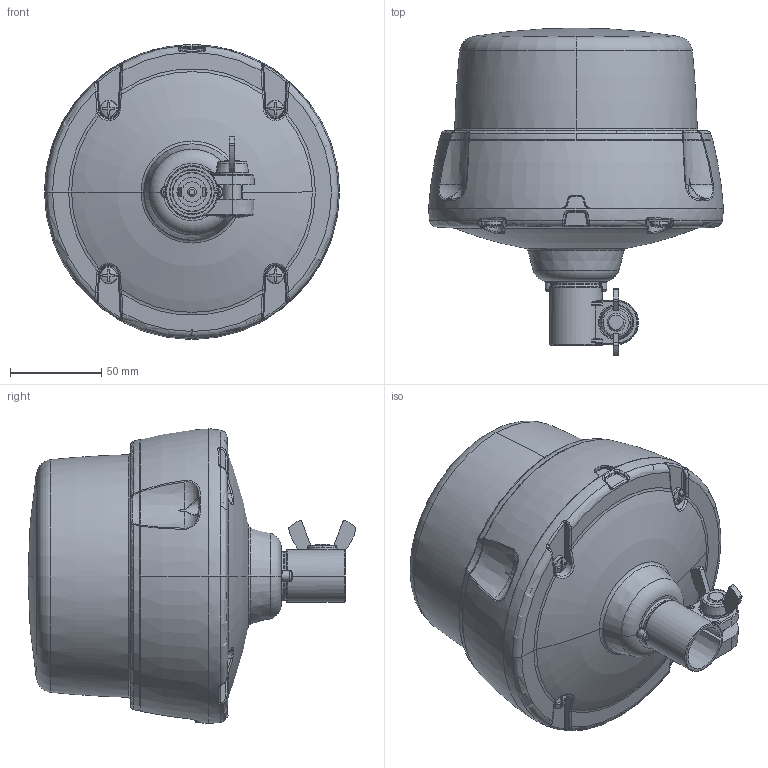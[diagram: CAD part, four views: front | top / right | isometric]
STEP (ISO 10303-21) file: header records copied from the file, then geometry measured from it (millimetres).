
FILE_DESCRIPTION (( 'STEP AP214' ), '1' );
FILE_NAME ('W112+Uchwyt_Uproszczona.STEP', '2015-07-30T07:08:28', ( 'Marcin' ), ( '' ), 'SwSTEP 2.0', 'SolidWorks 2013', '' );
FILE_SCHEMA (( 'AUTOMOTIVE_DESIGN' ));
Length unit declared in the file: millimetre
Products named in the file (10): Wtyczka_W02; Nakretka motylkowa M10_W02; Podkladka sprezysta M10_W02; Wkret 4_W02; Sruba M10_W02; Wkret 3_W02; Uchwyt_W02_Uproszczony; Podstawa_W02_Uproszczony; Klosz_W02_Uproszczony; W112+Uchwyt_Uproszczona
Assembly tree (12 placements, depth 2):
  W112+Uchwyt_Uproszczona
    Klosz_W02_Uproszczony
    Podstawa_W02_Uproszczony
    Uchwyt_W02_Uproszczony
    Wkret 3_W02
    Sruba M10_W02
    Wkret 4_W02  x4
    Podkladka sprezysta M10_W02
    Nakretka motylkowa M10_W02
    Wtyczka_W02
Bounding box: 161.6 x 179.65 x 161.6 mm (x, y, z)
Volume: 1587906 mm3; surface area: 212456.1 mm2
Topology: 12 solids, 12 shells, 1498 faces, 3756 edges, 2297 vertices
Faces by surface type: torus 371, plane 343, bspline 322, cone 275, cylinder 169, sphere 18
Entity records: 54299 total; most frequent: CARTESIAN_POINT 22474, ORIENTED_EDGE 7012, DIRECTION 6321, EDGE_CURVE 3506, AXIS2_PLACEMENT_3D 2817, VERTEX_POINT 2144, CIRCLE 1722, EDGE_LOOP 1450
